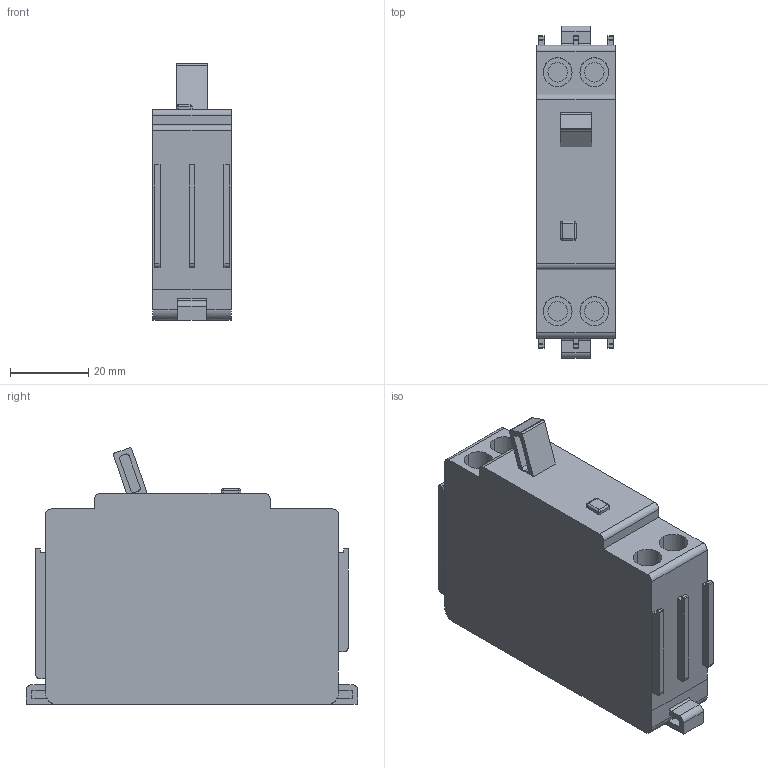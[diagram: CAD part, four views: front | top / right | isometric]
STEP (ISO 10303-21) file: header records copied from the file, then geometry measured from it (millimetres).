
FILE_DESCRIPTION (( 'STEP AP203' ), '1' );
FILE_NAME ('32F.STEP', '2018-01-04T00:40:14', ( '' ), ( '' ), 'SwSTEP 2.0', 'SolidWorks 2015', '' );
FILE_SCHEMA (( 'CONFIG_CONTROL_DESIGN' ));
Length unit declared in the file: millimetre
Products named in the file (1): 32F
Bounding box: 20 x 85 x 65.69 mm (x, y, z)
Volume: 75864.8 mm3; surface area: 16936.9 mm2
Topology: 1 solids, 1 shells, 176 faces, 468 edges, 308 vertices
Faces by surface type: plane 117, cylinder 55, sphere 4
Entity records: 5507 total; most frequent: CARTESIAN_POINT 949, DIRECTION 932, ORIENTED_EDGE 928, EDGE_CURVE 464, VECTOR 350, LINE 350, VERTEX_POINT 308, AXIS2_PLACEMENT_3D 291
